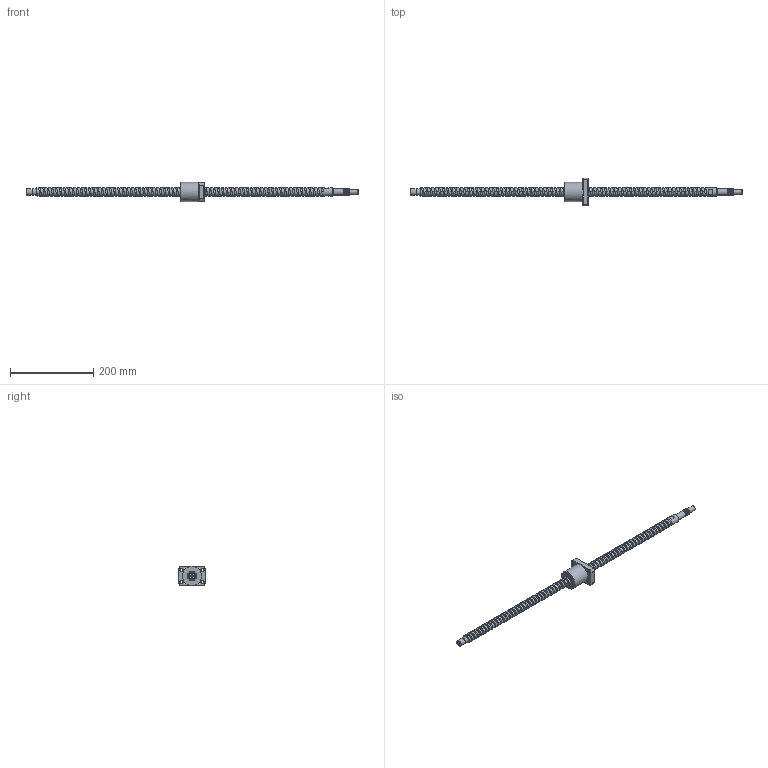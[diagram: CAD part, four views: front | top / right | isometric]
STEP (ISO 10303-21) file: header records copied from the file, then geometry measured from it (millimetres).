
FILE_DESCRIPTION (( 'STEP AP203' ), '1' );
FILE_NAME ('XSVR02010B1DGC5-799-P1.step', '2024-06-03T06:19:36', ( '' ), ( '' ), 'SwSTEP 2.0', 'SolidWorks 2022', '' );
FILE_SCHEMA (( 'CONFIG_CONTROL_DESIGN' ));
Products named in the file (1): XSVR02010B1DGC5-799-P1
Bounding box: 799 x 66 x 46 mm (x, y, z)
Volume: 308136.7 mm3; surface area: 72861 mm2
Topology: 2 solids, 2 shells, 229 faces, 636 edges, 419 vertices
Faces by surface type: cylinder 129, plane 40, bspline 31, cone 20, torus 9
Full cylindrical faces by diameter (mm): 4 x1, 5 x15, 6.6 x4, 11 x4, 12 x1, 14.3 x1, 15 x16, 20 x69, 22.3 x1, 46 x1
Entity records: 28259 total; most frequent: CARTESIAN_POINT 25601, ORIENTED_EDGE 594, DIRECTION 409, EDGE_CURVE 297, VERTEX_POINT 212, EDGE_LOOP 187, AXIS2_PLACEMENT_3D 179, FACE_OUTER_BOUND 150
